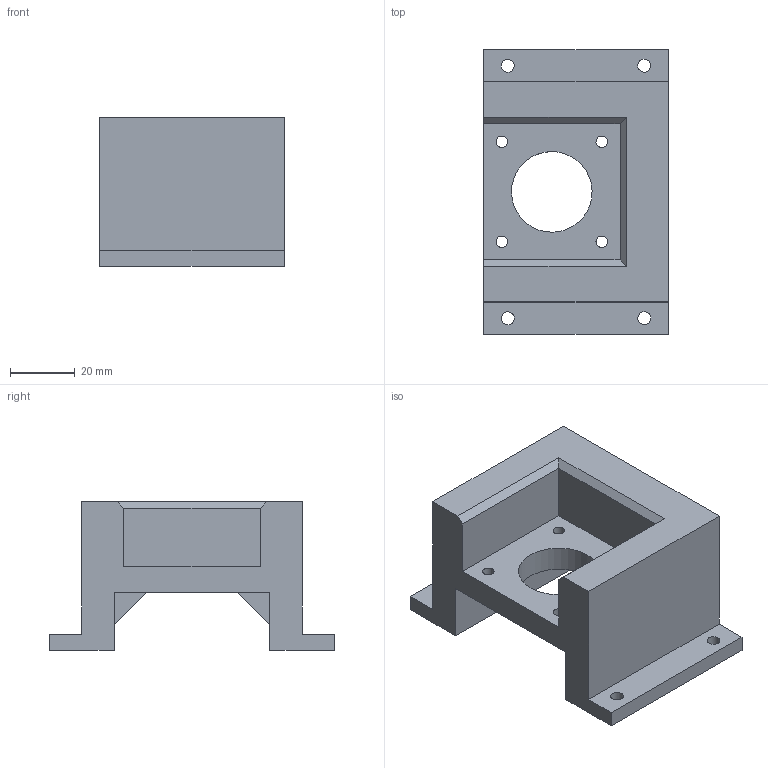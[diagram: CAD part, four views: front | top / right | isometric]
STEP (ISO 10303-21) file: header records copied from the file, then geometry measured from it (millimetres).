
FILE_DESCRIPTION(('CATIA V5 STEP Exchange'),'2;1');
FILE_NAME('C:\Users\user\Documents\Jakob\BAC - Arbeit 1\CAD Modell\CAD-Modell-Step files\rod mount\secondary\secondary rod mount_2 - stepper.stp','2018-12-13T14:10:05+00:00',('none'),('none'),'Version 5-6 Release 2012','CATIA V5 STEP AP203','none');
FILE_SCHEMA(('CONFIG_CONTROL_DESIGN'));
Length unit declared in the file: millimetre
Products named in the file (1): secondary rod mount_2 - stepper
Bounding box: 57.3 x 88.3 x 46 mm (x, y, z)
Volume: 94658.9 mm3; surface area: 24492.7 mm2
Topology: 1 solids, 1 shells, 49 faces, 137 edges, 92 vertices
Faces by surface type: plane 27, cylinder 22
Entity records: 1548 total; most frequent: ORIENTED_EDGE 274, CARTESIAN_POINT 266, DIRECTION 203, EDGE_CURVE 137, VERTEX_POINT 92, VECTOR 91, LINE 91, AXIS2_PLACEMENT_3D 79
